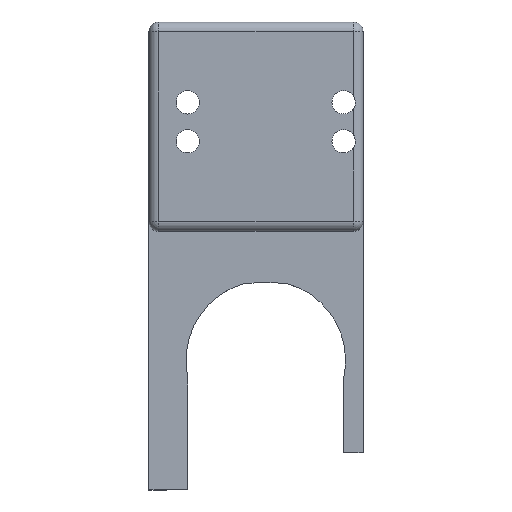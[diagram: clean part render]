
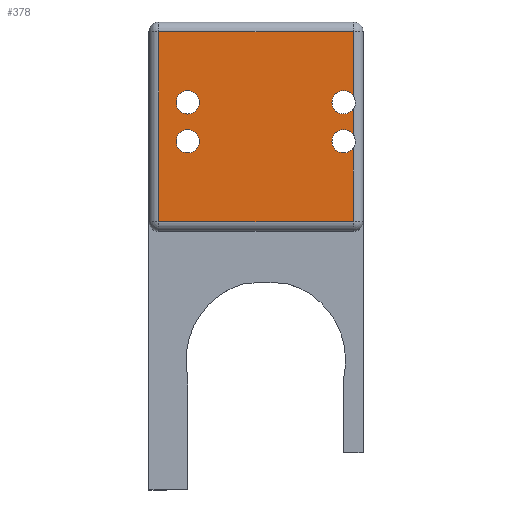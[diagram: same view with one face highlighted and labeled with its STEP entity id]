
A CAD part, top view. The second image highlights one B-rep face of the part: STEP entity #378.
In plain terms, the highlighted planar face has unit normal (0, 0, 1).
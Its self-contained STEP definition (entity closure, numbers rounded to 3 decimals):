
#3 = ORIENTED_EDGE ( 'NONE', *, *, #640, .T. ) ;
#21 = CARTESIAN_POINT ( 'NONE',  ( 31.2, 32., 28. ) ) ;
#42 = CIRCLE ( 'NONE', #1237, 1.2 ) ;
#63 = DIRECTION ( 'NONE',  ( -1., 0., 0. ) ) ;
#102 = AXIS2_PLACEMENT_3D ( 'NONE', #1133, #749, #1151 ) ;
#119 = EDGE_CURVE ( 'NONE', #1697, #1453, #1331, .T. ) ;
#126 = CARTESIAN_POINT ( 'NONE',  ( 28.8, 32., 28. ) ) ;
#133 = VECTOR ( 'NONE', #453, 1000. ) ;
#154 = AXIS2_PLACEMENT_3D ( 'NONE', #1272, #1560, #898 ) ;
#181 = EDGE_CURVE ( 'NONE', #1075, #380, #1666, .T. ) ;
#188 = AXIS2_PLACEMENT_3D ( 'NONE', #1241, #584, #1647 ) ;
#190 = CIRCLE ( 'NONE', #1609, 1.2 ) ;
#216 = VECTOR ( 'NONE', #1125, 1000. ) ;
#245 = CARTESIAN_POINT ( 'NONE',  ( 47., 43.25, 28. ) ) ;
#270 = EDGE_CURVE ( 'NONE', #397, #508, #190, .T. ) ;
#300 = CIRCLE ( 'NONE', #1607, 1.2 ) ;
#311 = DIRECTION ( 'NONE',  ( -1., 0., 0. ) ) ;
#312 = EDGE_CURVE ( 'NONE', #566, #1304, #483, .T. ) ;
#362 = ORIENTED_EDGE ( 'NONE', *, *, #119, .T. ) ;
#368 = CARTESIAN_POINT ( 'NONE',  ( 27., 0., 28. ) ) ;
#378 = ADVANCED_FACE ( 'NONE', ( #1577, #1011, #1288 ), #525, .T. ) ;
#380 = VERTEX_POINT ( 'NONE', #1280 ) ;
#385 = CIRCLE ( 'NONE', #102, 1.2 ) ;
#397 = VERTEX_POINT ( 'NONE', #776 ) ;
#409 = CARTESIAN_POINT ( 'NONE',  ( 48., 23.75, 28. ) ) ;
#428 = ORIENTED_EDGE ( 'NONE', *, *, #1044, .T. ) ;
#433 = VECTOR ( 'NONE', #984, 1000. ) ;
#453 = DIRECTION ( 'NONE',  ( -1., 0., 0. ) ) ;
#475 = CARTESIAN_POINT ( 'NONE',  ( 47., 0., 28. ) ) ;
#483 = LINE ( 'NONE', #368, #1122 ) ;
#490 = CARTESIAN_POINT ( 'NONE',  ( 47., 32.663, 28. ) ) ;
#491 = CIRCLE ( 'NONE', #824, 1.2 ) ;
#508 = VERTEX_POINT ( 'NONE', #1488 ) ;
#512 = EDGE_CURVE ( 'NONE', #1304, #1697, #1329, .T. ) ;
#513 = CARTESIAN_POINT ( 'NONE',  ( 47., 23.75, 28. ) ) ;
#516 = VERTEX_POINT ( 'NONE', #21 ) ;
#525 = PLANE ( 'NONE',  #154 ) ;
#545 = VECTOR ( 'NONE', #1059, 1000. ) ;
#566 = VERTEX_POINT ( 'NONE', #588 ) ;
#584 = DIRECTION ( 'NONE',  ( 0., 0., -1. ) ) ;
#588 = CARTESIAN_POINT ( 'NONE',  ( 27., 43.25, 28. ) ) ;
#599 = CARTESIAN_POINT ( 'NONE',  ( 47., 31.337, 28. ) ) ;
#637 = VERTEX_POINT ( 'NONE', #1389 ) ;
#640 = EDGE_CURVE ( 'NONE', #508, #745, #1626, .T. ) ;
#708 = AXIS2_PLACEMENT_3D ( 'NONE', #837, #1368, #857 ) ;
#745 = VERTEX_POINT ( 'NONE', #245 ) ;
#749 = DIRECTION ( 'NONE',  ( 0., 0., -1. ) ) ;
#776 = CARTESIAN_POINT ( 'NONE',  ( 44.8, 36., 28. ) ) ;
#791 = CARTESIAN_POINT ( 'NONE',  ( 30., 32., 28. ) ) ;
#816 = EDGE_CURVE ( 'NONE', #1296, #637, #385, .T. ) ;
#824 = AXIS2_PLACEMENT_3D ( 'NONE', #866, #990, #877 ) ;
#828 = ORIENTED_EDGE ( 'NONE', *, *, #512, .T. ) ;
#831 = ORIENTED_EDGE ( 'NONE', *, *, #270, .T. ) ;
#837 = CARTESIAN_POINT ( 'NONE',  ( 46., 32., 28. ) ) ;
#841 = VERTEX_POINT ( 'NONE', #1575 ) ;
#842 = CARTESIAN_POINT ( 'NONE',  ( 48., 43.25, 28. ) ) ;
#852 = ORIENTED_EDGE ( 'NONE', *, *, #1054, .T. ) ;
#856 = EDGE_LOOP ( 'NONE', ( #1508, #862 ) ) ;
#857 = DIRECTION ( 'NONE',  ( -1., 0., 0. ) ) ;
#862 = ORIENTED_EDGE ( 'NONE', *, *, #1031, .T. ) ;
#863 = EDGE_CURVE ( 'NONE', #1265, #516, #42, .T. ) ;
#866 = CARTESIAN_POINT ( 'NONE',  ( 30., 36., 28. ) ) ;
#873 = CIRCLE ( 'NONE', #188, 1.2 ) ;
#877 = DIRECTION ( 'NONE',  ( -1., 0., 0. ) ) ;
#898 = DIRECTION ( 'NONE',  ( -1., 0., 0. ) ) ;
#901 = EDGE_LOOP ( 'NONE', ( #1675, #852 ) ) ;
#929 = DIRECTION ( 'NONE',  ( 1., 0., 0. ) ) ;
#946 = CARTESIAN_POINT ( 'NONE',  ( 46., 36., 28. ) ) ;
#958 = CARTESIAN_POINT ( 'NONE',  ( 46., 32., 28. ) ) ;
#984 = DIRECTION ( 'NONE',  ( 0., 1., 0. ) ) ;
#990 = DIRECTION ( 'NONE',  ( 0., 0., -1. ) ) ;
#1007 = EDGE_CURVE ( 'NONE', #380, #397, #300, .T. ) ;
#1011 = FACE_BOUND ( 'NONE', #856, .T. ) ;
#1031 = EDGE_CURVE ( 'NONE', #516, #1265, #873, .T. ) ;
#1044 = EDGE_CURVE ( 'NONE', #745, #566, #1108, .T. ) ;
#1054 = EDGE_CURVE ( 'NONE', #637, #1296, #491, .T. ) ;
#1055 = CARTESIAN_POINT ( 'NONE',  ( 28.8, 36., 28. ) ) ;
#1059 = DIRECTION ( 'NONE',  ( 0., 1., 0. ) ) ;
#1075 = VERTEX_POINT ( 'NONE', #490 ) ;
#1108 = LINE ( 'NONE', #842, #133 ) ;
#1122 = VECTOR ( 'NONE', #1303, 1000. ) ;
#1125 = DIRECTION ( 'NONE',  ( 0., 1., 0. ) ) ;
#1133 = CARTESIAN_POINT ( 'NONE',  ( 30., 36., 28. ) ) ;
#1151 = DIRECTION ( 'NONE',  ( -1., 0., 0. ) ) ;
#1181 = DIRECTION ( 'NONE',  ( 0., 0., -1. ) ) ;
#1186 = CIRCLE ( 'NONE', #1259, 1.2 ) ;
#1232 = DIRECTION ( 'NONE',  ( -1., 0., 0. ) ) ;
#1237 = AXIS2_PLACEMENT_3D ( 'NONE', #791, #1181, #1502 ) ;
#1241 = CARTESIAN_POINT ( 'NONE',  ( 30., 32., 28. ) ) ;
#1253 = CARTESIAN_POINT ( 'NONE',  ( 46., 36., 28. ) ) ;
#1259 = AXIS2_PLACEMENT_3D ( 'NONE', #958, #1503, #311 ) ;
#1265 = VERTEX_POINT ( 'NONE', #126 ) ;
#1272 = CARTESIAN_POINT ( 'NONE',  ( 48., 0., 28. ) ) ;
#1275 = ORIENTED_EDGE ( 'NONE', *, *, #312, .T. ) ;
#1280 = CARTESIAN_POINT ( 'NONE',  ( 47., 35.337, 28. ) ) ;
#1288 = FACE_BOUND ( 'NONE', #901, .T. ) ;
#1290 = CIRCLE ( 'NONE', #708, 1.2 ) ;
#1296 = VERTEX_POINT ( 'NONE', #1055 ) ;
#1303 = DIRECTION ( 'NONE',  ( 0., -1., 0. ) ) ;
#1304 = VERTEX_POINT ( 'NONE', #1608 ) ;
#1313 = ORIENTED_EDGE ( 'NONE', *, *, #1007, .T. ) ;
#1329 = LINE ( 'NONE', #409, #1466 ) ;
#1331 = LINE ( 'NONE', #1476, #545 ) ;
#1333 = ORIENTED_EDGE ( 'NONE', *, *, #1427, .T. ) ;
#1365 = DIRECTION ( 'NONE',  ( 0., 0., -1. ) ) ;
#1368 = DIRECTION ( 'NONE',  ( 0., 0., -1. ) ) ;
#1376 = ORIENTED_EDGE ( 'NONE', *, *, #181, .T. ) ;
#1389 = CARTESIAN_POINT ( 'NONE',  ( 31.2, 36., 28. ) ) ;
#1427 = EDGE_CURVE ( 'NONE', #841, #1075, #1186, .T. ) ;
#1429 = EDGE_CURVE ( 'NONE', #1453, #841, #1290, .T. ) ;
#1453 = VERTEX_POINT ( 'NONE', #599 ) ;
#1466 = VECTOR ( 'NONE', #929, 1000. ) ;
#1476 = CARTESIAN_POINT ( 'NONE',  ( 47., 0., 28. ) ) ;
#1488 = CARTESIAN_POINT ( 'NONE',  ( 47., 36.663, 28. ) ) ;
#1493 = DIRECTION ( 'NONE',  ( 0., 0., -1. ) ) ;
#1502 = DIRECTION ( 'NONE',  ( -1., 0., 0. ) ) ;
#1503 = DIRECTION ( 'NONE',  ( 0., 0., -1. ) ) ;
#1506 = CARTESIAN_POINT ( 'NONE',  ( 47., 0., 28. ) ) ;
#1508 = ORIENTED_EDGE ( 'NONE', *, *, #863, .T. ) ;
#1560 = DIRECTION ( 'NONE',  ( 0., 0., 1. ) ) ;
#1575 = CARTESIAN_POINT ( 'NONE',  ( 44.8, 32., 28. ) ) ;
#1577 = FACE_OUTER_BOUND ( 'NONE', #1639, .T. ) ;
#1591 = ORIENTED_EDGE ( 'NONE', *, *, #1429, .T. ) ;
#1607 = AXIS2_PLACEMENT_3D ( 'NONE', #946, #1493, #1232 ) ;
#1608 = CARTESIAN_POINT ( 'NONE',  ( 27., 23.75, 28. ) ) ;
#1609 = AXIS2_PLACEMENT_3D ( 'NONE', #1253, #1365, #63 ) ;
#1626 = LINE ( 'NONE', #1506, #433 ) ;
#1639 = EDGE_LOOP ( 'NONE', ( #3, #428, #1275, #828, #362, #1591, #1333, #1376, #1313, #831 ) ) ;
#1647 = DIRECTION ( 'NONE',  ( -1., 0., 0. ) ) ;
#1666 = LINE ( 'NONE', #475, #216 ) ;
#1675 = ORIENTED_EDGE ( 'NONE', *, *, #816, .T. ) ;
#1697 = VERTEX_POINT ( 'NONE', #513 ) ;
